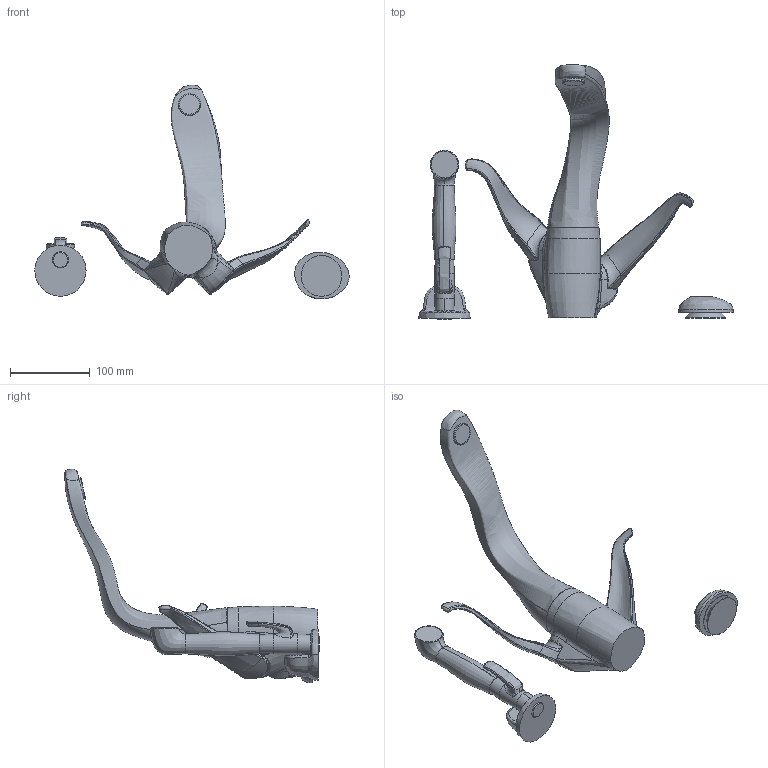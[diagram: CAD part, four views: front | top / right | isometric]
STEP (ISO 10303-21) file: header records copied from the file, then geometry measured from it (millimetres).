
FILE_DESCRIPTION (( 'STEP AP203' ), '1' );
FILE_NAME ('8223F(2016)+8227F(2016)+07462283.STEP', '2017-03-09T06:01:40', ( '' ), ( '' ), 'SwSTEP 2.0', 'SolidWorks 2016', '' );
FILE_SCHEMA (( 'CONFIG_CONTROL_DESIGN' ));
Products named in the file (1): 8223F(2016)+8227F(2016)+07462283
Bounding box: 393.22 x 318.12 x 267.65 mm (x, y, z)
Volume: 1243702.1 mm3; surface area: 146799.4 mm2
Topology: 3 solids, 3 shells, 222 faces, 545 edges, 342 vertices
Faces by surface type: bspline 172, plane 16, torus 11, cone 11, cylinder 7, sphere 5
Full cylindrical faces by diameter (mm): 24.8 x2, 27.6 x1, 51 x2, 63 x1
Entity records: 193409 total; most frequent: CARTESIAN_POINT 189655, ORIENTED_EDGE 1046, EDGE_CURVE 523, B_SPLINE_CURVE_WITH_KNOTS 434, VERTEX_POINT 334, EDGE_LOOP 249, DIRECTION 239, FACE_OUTER_BOUND 233
